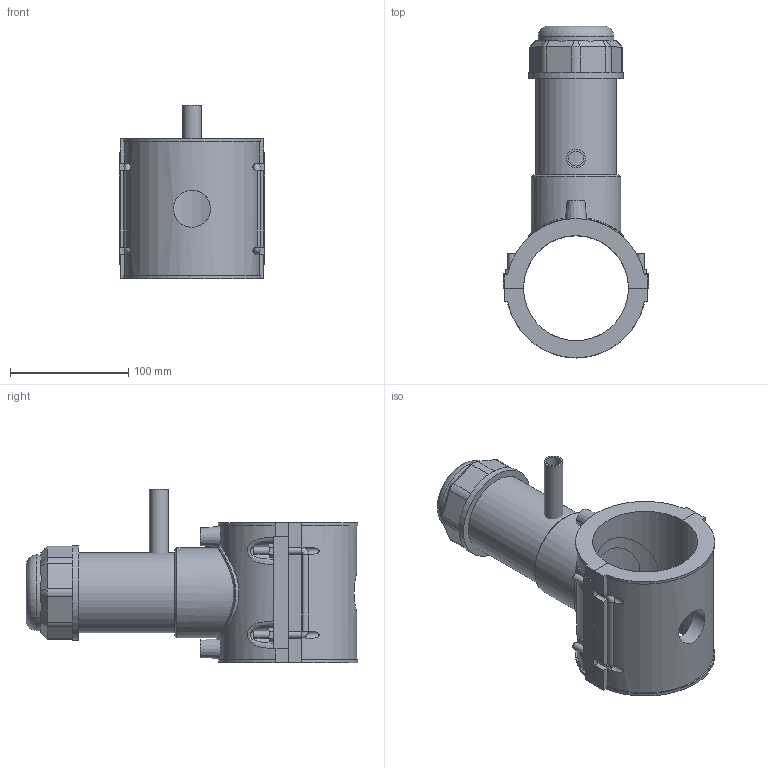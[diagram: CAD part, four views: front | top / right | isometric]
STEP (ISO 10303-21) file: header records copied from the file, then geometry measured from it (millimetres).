
FILE_DESCRIPTION(/* description */ ('PLASSON TAPPING SADDLE 3''''IPS x 1/2''''CTS'),/* implementation_level */ '2;1');
FILE_NAME(/* name */ 'C:\Dropbox\KIMPROJECTS-Inventor 2019\99-16-3568-Processing Inch\ASTM ElectroFusion 2021\5963BBP_5963BUP\5963BUP3030005.ipt.stp',/* time_stamp */ '2021-08-30T09:57:39+03:00',/* author */ ('KIM'),/* organization */ (''),/* preprocessor_version */ 'ST-DEVELOPER v17.2',/* originating_system */ 'Autodesk Inventor 2019',/* authorisation */ '');
FILE_SCHEMA (('AUTOMOTIVE_DESIGN { 1 0 10303 214 3 1 1 }'));
Length unit declared in the file: inch
Products named in the file (1): 5963BUP3030005
Bounding box: 122.9 x 280.2 x 146.43 mm (x, y, z)
Volume: 929094 mm3; surface area: 186715.2 mm2
Topology: 3 solids, 3 shells, 204 faces, 543 edges, 356 vertices
Faces by surface type: plane 125, cylinder 53, cone 15, bspline 10, torus 1
Full cylindrical faces by diameter (mm): 4 x2, 6 x8, 10 x2, 12.64 x1, 15.8 x1, 31.36 x1, 55.881 x1, 63.864 x1, 67.856 x1, 75.839 x1, 79.83 x1
Entity records: 7875 total; most frequent: CARTESIAN_POINT 2739, ORIENTED_EDGE 1086, DIRECTION 1022, EDGE_CURVE 543, VERTEX_POINT 356, AXIS2_PLACEMENT_3D 351, LINE 320, VECTOR 320
